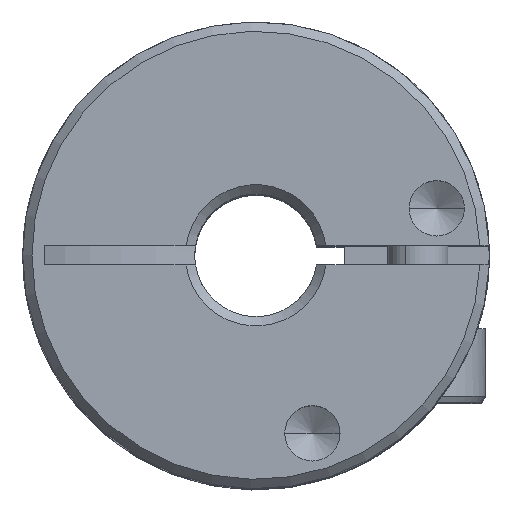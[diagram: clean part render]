
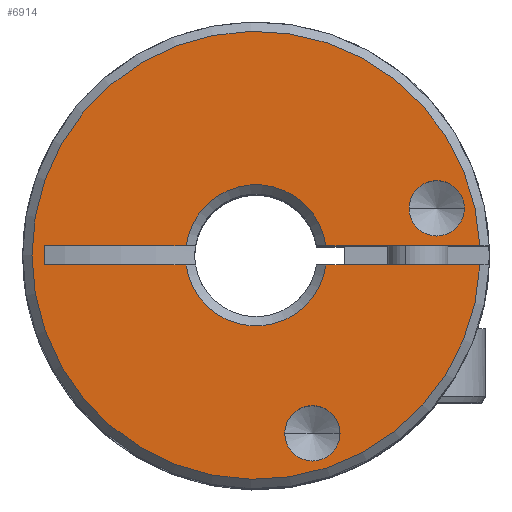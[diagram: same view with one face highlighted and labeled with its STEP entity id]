
A CAD part, top view. The second image highlights one B-rep face of the part: STEP entity #6914.
In plain terms, the highlighted planar face has unit normal (0, 0, 1).
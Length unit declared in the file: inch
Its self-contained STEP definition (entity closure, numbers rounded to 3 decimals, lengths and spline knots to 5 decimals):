
#2343=CARTESIAN_POINT('',(0.,0.,0.32));
#2344=DIRECTION('',(0.,0.,1.));
#2345=DIRECTION('',(0.999,0.043,0.));
#2346=AXIS2_PLACEMENT_3D('',#2343,#2344,#2345);
#2348=DIRECTION('',(1.,0.,0.));
#2349=VECTOR('',#2348,0.24728);
#2350=CARTESIAN_POINT('',(0.11239,0.0155,0.32));
#2351=LINE('',#2350,#2349);
#2352=CARTESIAN_POINT('',(0.,0.,0.32));
#2353=DIRECTION('',(0.,0.,-1.));
#2354=DIRECTION('',(-0.991,0.137,0.));
#2355=AXIS2_PLACEMENT_3D('',#2352,#2353,#2354);
#2357=DIRECTION('',(1.,0.,0.));
#2358=VECTOR('',#2357,0.22761);
#2359=CARTESIAN_POINT('',(-0.34,0.0155,0.32));
#2360=LINE('',#2359,#2358);
#2361=DIRECTION('',(0.,-1.,0.));
#2362=VECTOR('',#2361,0.031);
#2363=CARTESIAN_POINT('',(-0.34,0.0155,0.32));
#2364=LINE('',#2363,#2362);
#2365=DIRECTION('',(-1.,0.,0.));
#2366=VECTOR('',#2365,0.22761);
#2367=CARTESIAN_POINT('',(-0.11239,-0.0155,0.32));
#2368=LINE('',#2367,#2366);
#2369=CARTESIAN_POINT('',(0.,0.,0.32));
#2370=DIRECTION('',(0.,0.,-1.));
#2371=DIRECTION('',(0.991,-0.137,0.));
#2372=AXIS2_PLACEMENT_3D('',#2369,#2370,#2371);
#2374=DIRECTION('',(-1.,0.,0.));
#2375=VECTOR('',#2374,0.24728);
#2376=CARTESIAN_POINT('',(0.35967,-0.0155,0.32));
#2377=LINE('',#2376,#2375);
#2378=CARTESIAN_POINT('',(0.09061,-0.28599,0.32));
#2379=DIRECTION('',(0.,0.,-1.));
#2380=DIRECTION('',(1.,0.,0.));
#2381=AXIS2_PLACEMENT_3D('',#2378,#2379,#2380);
#2383=CARTESIAN_POINT('',(0.09061,-0.28599,0.32));
#2384=DIRECTION('',(0.,0.,-1.));
#2385=DIRECTION('',(-1.,0.,0.));
#2386=AXIS2_PLACEMENT_3D('',#2383,#2384,#2385);
#2783=CARTESIAN_POINT('',(0.29034,0.07552,0.32));
#2784=DIRECTION('',(0.,0.,-1.));
#2785=DIRECTION('',(1.,0.,0.));
#2786=AXIS2_PLACEMENT_3D('',#2783,#2784,#2785);
#2792=CARTESIAN_POINT('',(0.29034,0.07552,0.32));
#2793=DIRECTION('',(0.,0.,-1.));
#2794=DIRECTION('',(-1.,0.,0.));
#2795=AXIS2_PLACEMENT_3D('',#2792,#2793,#2794);
#2939=CARTESIAN_POINT('',(0.24584,0.07552,0.32));
#2940=VERTEX_POINT('',#2939);
#2941=CARTESIAN_POINT('',(0.33484,0.07552,0.32));
#2942=VERTEX_POINT('',#2941);
#2943=CARTESIAN_POINT('',(0.11239,0.0155,0.32));
#2944=CARTESIAN_POINT('',(0.35967,0.0155,0.32));
#2945=VERTEX_POINT('',#2943);
#2946=VERTEX_POINT('',#2944);
#2947=CARTESIAN_POINT('',(-0.11239,0.0155,0.32));
#2948=VERTEX_POINT('',#2947);
#2949=CARTESIAN_POINT('',(-0.34,0.0155,0.32));
#2950=VERTEX_POINT('',#2949);
#2951=CARTESIAN_POINT('',(-0.11239,-0.0155,0.32));
#2952=CARTESIAN_POINT('',(-0.34,-0.0155,0.32));
#2953=VERTEX_POINT('',#2951);
#2954=VERTEX_POINT('',#2952);
#2955=CARTESIAN_POINT('',(0.11239,-0.0155,0.32));
#2956=VERTEX_POINT('',#2955);
#2957=CARTESIAN_POINT('',(0.35967,-0.0155,0.32));
#2958=VERTEX_POINT('',#2957);
#2959=CARTESIAN_POINT('',(0.13511,-0.28599,0.32));
#2960=CARTESIAN_POINT('',(0.04611,-0.28599,0.32));
#2961=VERTEX_POINT('',#2959);
#2962=VERTEX_POINT('',#2960);
#6880=CARTESIAN_POINT('',(0.,0.,0.32));
#6881=DIRECTION('',(0.,0.,1.));
#6882=DIRECTION('',(1.,0.,0.));
#6883=AXIS2_PLACEMENT_3D('',#6880,#6881,#6882);
#6884=PLANE('',#6883);
#6886=ORIENTED_EDGE('',*,*,#6885,.F.);
#6888=ORIENTED_EDGE('',*,*,#6887,.F.);
#6890=ORIENTED_EDGE('',*,*,#6889,.F.);
#6892=ORIENTED_EDGE('',*,*,#6891,.F.);
#6893=ORIENTED_EDGE('',*,*,#6863,.T.);
#6895=ORIENTED_EDGE('',*,*,#6894,.F.);
#6897=ORIENTED_EDGE('',*,*,#6896,.F.);
#6899=ORIENTED_EDGE('',*,*,#6898,.F.);
#6900=EDGE_LOOP('',(#6886,#6888,#6890,#6892,#6893,#6895,#6897,#6899));
#6901=FACE_OUTER_BOUND('',#6900,.F.);
#6903=ORIENTED_EDGE('',*,*,#6902,.F.);
#6905=ORIENTED_EDGE('',*,*,#6904,.F.);
#6906=EDGE_LOOP('',(#6903,#6905));
#6907=FACE_BOUND('',#6906,.F.);
#6909=ORIENTED_EDGE('',*,*,#6908,.F.);
#6911=ORIENTED_EDGE('',*,*,#6910,.F.);
#6912=EDGE_LOOP('',(#6909,#6911));
#6913=FACE_BOUND('',#6912,.F.);
#2347=CIRCLE('',#2346,0.36);
#2356=CIRCLE('',#2355,0.11345);
#2373=CIRCLE('',#2372,0.11345);
#2382=CIRCLE('',#2381,0.0445);
#2387=CIRCLE('',#2386,0.0445);
#2787=CIRCLE('',#2786,0.0445);
#2796=CIRCLE('',#2795,0.0445);
#6863=EDGE_CURVE('',#2950,#2954,#2364,.T.);
#6885=EDGE_CURVE('',#2946,#2958,#2347,.T.);
#6887=EDGE_CURVE('',#2945,#2946,#2351,.T.);
#6889=EDGE_CURVE('',#2948,#2945,#2356,.T.);
#6891=EDGE_CURVE('',#2950,#2948,#2360,.T.);
#6894=EDGE_CURVE('',#2953,#2954,#2368,.T.);
#6896=EDGE_CURVE('',#2956,#2953,#2373,.T.);
#6898=EDGE_CURVE('',#2958,#2956,#2377,.T.);
#6902=EDGE_CURVE('',#2961,#2962,#2382,.T.);
#6904=EDGE_CURVE('',#2962,#2961,#2387,.T.);
#6908=EDGE_CURVE('',#2942,#2940,#2787,.T.);
#6910=EDGE_CURVE('',#2940,#2942,#2796,.T.);
#6914=ADVANCED_FACE('',(#6901,#6907,#6913),#6884,.T.);
